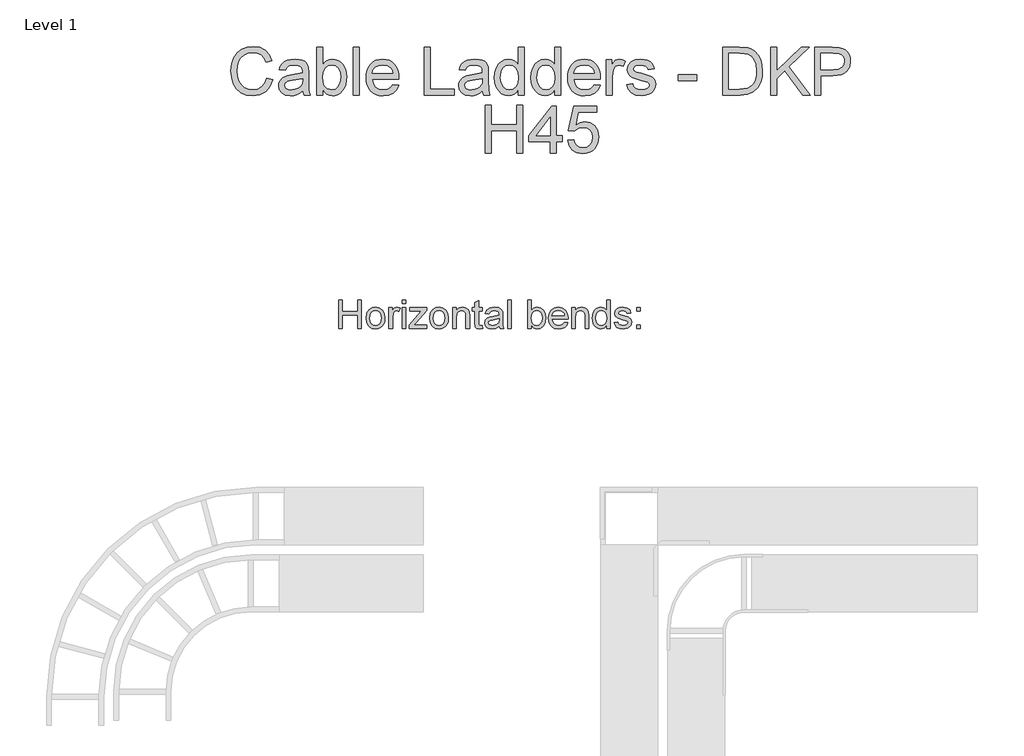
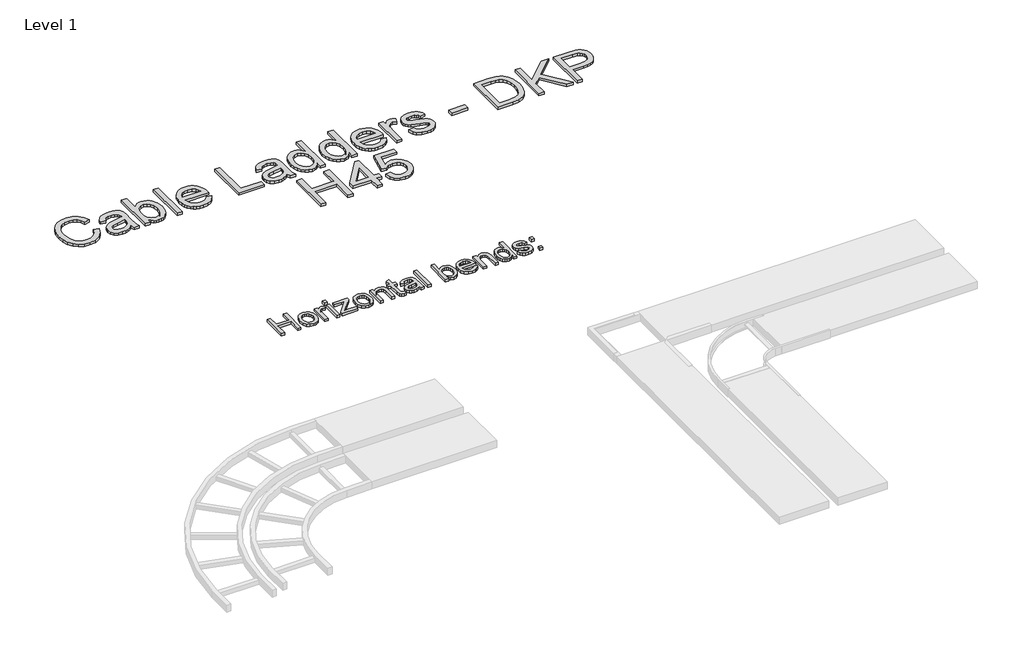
# One storey, part 82 of 106: 2 proxies.
"""IFC4 building model written with IfcOpenShell, lengths in millimetres."""

import ifcopenshell
import ifcopenshell.guid

model = None  # the IFC model being written
_history = None  # IfcOwnerHistory: only IFC2X3 demands one
_inside = {}  # id of a spatial element -> (the spatial element, [elements in it])
_under = {}  # id of a project, library or spatial element -> (it, [spatial elements below it])
_declared = {}  # id of a project -> (the project, [libraries it declares])
_typed = {}  # id of a type object -> (the type object, [elements of that type])
_made_of = {}  # id of a material, layer set ... -> (it, [elements and type objects made of it])


def new_model(schema):
    """Start an empty IFC model of exactly this schema.

    Asked for "IFC4X3", IfcOpenShell would pick the latest addendum, in which some entities
    have other attributes; the version numbers below select the first issue.
    IFC2X3 requires an IfcOwnerHistory on every rooted entity: one is made here for all.
    """
    global model, _history
    if schema == "IFC4X3":
        model = ifcopenshell.file(schema_version=(4, 3, 0, 0))
    else:
        model = ifcopenshell.file(schema=schema)
    _inside.clear()
    _under.clear()
    _declared.clear()
    _typed.clear()
    _made_of.clear()
    _history = None
    if model.schema == "IFC2X3":
        org = make("IfcOrganization", Name="unknown")
        user = make(
            "IfcPersonAndOrganization",
            ThePerson=make("IfcPerson", FamilyName="unknown"),
            TheOrganization=org,
        )
        app = make(
            "IfcApplication",
            ApplicationDeveloper=org,
            Version="unknown",
            ApplicationFullName="unknown",
            ApplicationIdentifier="unknown",
        )
        _history = make(
            "IfcOwnerHistory",
            OwningUser=user,
            OwningApplication=app,
            ChangeAction="ADDED",
            CreationDate=0,
        )
    return model


def make(cls, **values):
    """One entity of the class cls with the attributes given. An attribute that is None is left unset."""
    return model.create_entity(
        cls, **{name: value for name, value in values.items() if value is not None}
    )


def rooted(cls, **values):
    """An entity with a GlobalId (a new one), such as an element, a storey or a relation."""
    return make(cls, GlobalId=ifcopenshell.guid.new(), OwnerHistory=_history, **values)


def si_unit(unit_type, name, prefix=None):
    """IfcSIUnit, for example si_unit("LENGTHUNIT", "METRE", prefix="MILLI")."""
    return make("IfcSIUnit", UnitType=unit_type, Prefix=prefix, Name=name)


def assignment(units):
    """IfcUnitAssignment: the units of a project."""
    return None if units is None else make("IfcUnitAssignment", Units=units)


def point(xyz):
    """IfcCartesianPoint."""
    return None if xyz is None else make("IfcCartesianPoint", Coordinates=xyz)


def direction(xyz):
    """IfcDirection."""
    return None if xyz is None else make("IfcDirection", DirectionRatios=xyz)


def frame(location, z_axis=None, x_axis=None):
    """IfcAxis2Placement3D, a coordinate frame: its origin and axes. An axis left out is left unset."""
    return make(
        "IfcAxis2Placement3D",
        Location=point(location),
        Axis=direction(z_axis),
        RefDirection=direction(x_axis),
    )


def origin():
    """The frame at (0, 0, 0) with its axes left unset."""
    return frame((0.0, 0.0, 0.0))


def origin_with_axes():
    """The frame at (0, 0, 0) with the z axis (0, 0, 1) and the x axis (1, 0, 0) written out."""
    return frame((0.0, 0.0, 0.0), z_axis=(0.0, 0.0, 1.0), x_axis=(1.0, 0.0, 0.0))


def place(relative_to, where):
    """IfcLocalPlacement: puts the frame where relative to a parent placement (None: the world)."""
    return make(
        "IfcLocalPlacement", PlacementRelTo=relative_to, RelativePlacement=where
    )


def context(
    kind, dimensions, precision=None, world=None, true_north=None, identifier=None
):
    """IfcGeometricRepresentationContext, for example the 3D "Model" context."""
    return make(
        "IfcGeometricRepresentationContext",
        ContextIdentifier=identifier,
        ContextType=kind,
        CoordinateSpaceDimension=dimensions,
        Precision=precision,
        WorldCoordinateSystem=world,
        TrueNorth=true_north,
    )


def project(units=None, contexts=None):
    """IfcProject with its units and contexts."""
    return rooted(
        "IfcProject",
        Name="project",
        RepresentationContexts=contexts,
        UnitsInContext=assignment(units),
    )


def spatial(cls, under=None, at=None, **own):
    """A site, building, storey or space (cls), placed at a placement, below another one or the project."""
    s = rooted(cls, ObjectPlacement=at, **own)
    if under is not None:
        _under.setdefault(under.id(), (under, []))[1].append(s)
    return s


def polyline(points):
    """IfcPolyline through the points."""
    return make("IfcPolyline", Points=[point(p) for p in points])


def outline(outer, holes=None, kind="AREA"):
    """IfcArbitraryClosedProfileDef: a profile drawn as a closed curve; with holes, ...WithVoids."""
    if holes is None:
        return make("IfcArbitraryClosedProfileDef", ProfileType=kind, OuterCurve=outer)
    return make(
        "IfcArbitraryProfileDefWithVoids",
        ProfileType=kind,
        OuterCurve=outer,
        InnerCurves=holes,
    )


def extrude(swept, where, along, depth):
    """IfcExtrudedAreaSolid: the profile swept, set in the frame where, extruded along a direction by depth."""
    return make(
        "IfcExtrudedAreaSolid",
        SweptArea=swept,
        Position=where,
        ExtrudedDirection=direction(along),
        Depth=depth,
    )


def shape(context_of_items, identifier, shape_type, items):
    """IfcShapeRepresentation: the items that make up one representation, for example the "Body"."""
    return make(
        "IfcShapeRepresentation",
        ContextOfItems=context_of_items,
        RepresentationIdentifier=identifier,
        RepresentationType=shape_type,
        Items=items,
    )


def made_of(thing, what):
    """Note that an element or type object is made of a material, layer set ...; save() writes the relation."""
    if what is not None:
        _made_of.setdefault(what.id(), (what, []))[1].append(thing)
    return thing


def element(
    cls,
    number,
    at=None,
    inside=None,
    cuts=None,
    type_object=None,
    material=None,
    context=None,
    identifier="Body",
    shape_type=None,
    held_by="IfcProductDefinitionShape",
    body=None,
    shapes=None,
    **own,
):
    """One element of the class cls, such as IfcWall. Its Tag is "e" and its number.

    at: its placement. inside: the storey or other place that contains it. cuts: it is an
    opening in that element (IfcRelVoidsElement). A single representation is given by context,
    identifier, shape_type and body (its items); several are given by shapes. held_by: the class
    of the entity that holds the representations. save() writes the other relations.
    """
    e = rooted(cls, Tag="e%d" % number, ObjectPlacement=at, **own)
    if body is not None:
        shapes = [shape(context, identifier, shape_type, body)]
    if shapes is not None:
        e.Representation = make(held_by, Representations=shapes)
    if inside is not None:
        _inside.setdefault(inside.id(), (inside, []))[1].append(e)
    if cuts is not None:
        rooted(
            "IfcRelVoidsElement", RelatingBuildingElement=cuts, RelatedOpeningElement=e
        )
    if type_object is not None:
        _typed.setdefault(type_object.id(), (type_object, []))[1].append(e)
    return made_of(e, material)


def aggregate(whole, parts):
    """IfcRelAggregates: a whole, such as a stair, and the parts it consists of."""
    return rooted("IfcRelAggregates", RelatingObject=whole, RelatedObjects=parts)


def save(model, path):
    """Write the relations noted so far, then the file.

    IfcRelAggregates (storeys below a building ...), IfcRelContainedInSpatialStructure (elements
    in a storey), IfcRelDefinesByType, IfcRelAssociatesMaterial and IfcRelDeclares: one each for
    every whole, place, type object, material and project.
    """
    for whole, parts in _under.values():
        aggregate(whole, parts)
    for where, things in _inside.values():
        rooted(
            "IfcRelContainedInSpatialStructure",
            RelatedElements=things,
            RelatingStructure=where,
        )
    for kind, things in _typed.values():
        rooted("IfcRelDefinesByType", RelatedObjects=things, RelatingType=kind)
    for what, things in _made_of.values():
        rooted("IfcRelAssociatesMaterial", RelatedObjects=things, RelatingMaterial=what)
    for by, libraries in _declared.values():
        rooted("IfcRelDeclares", RelatingContext=by, RelatedDefinitions=libraries)
    model.write(path)


model = new_model("IFC4")

# Units and contexts
model_context = context("Model", 3, world=origin())
ifc_project = project(units=[si_unit("LENGTHUNIT", "METRE", prefix="MILLI")], contexts=[model_context])

# Site, building, storey
site = spatial("IfcSite", under=ifc_project)
building = spatial("IfcBuilding", under=site)
storey = spatial("IfcBuildingStorey", under=building, Name="Level 1", Elevation=0.0)

# Proxies
placement = place(None, origin())
element("IfcBuildingElementProxy", 1, Name="150mm Arial 2", ObjectType="150mm Arial 2", at=placement, inside=storey, context=model_context, shape_type="SweptSolid", body=[
    extrude(outline(polyline([(42265.8833156, 70274.2713912), (42265.8833156, 70424.9558564), (42284.7188737, 70424.9558564), (42284.7188737, 70363.7402924), (42364.7699959, 70363.7402924), (42364.7699959, 70424.9558564), (42383.605554, 70424.9558564), (42383.605554, 70274.2713912), (42364.7699959, 70274.2713912), (42364.7699959, 70344.9047343), (42284.7188737, 70344.9047343), (42284.7188737, 70274.2713912), (42265.8833156, 70274.2713912)])), origin_with_axes(), (0.0, 0.0, 1.0), 15.0),
    extrude(outline(polyline([(42409.5044465, 70329.6008433), (42413.5787396, 70356.281485), (42425.8016189, 70375.0342697), (42440.9031748, 70384.2221225), (42458.9845748, 70387.2847401), (42478.7720277, 70383.5553364), (42494.5771579, 70372.3671252), (42504.9376346, 70354.6030234), (42508.3911268, 70331.1459476), (42506.8644165, 70312.1172514), (42502.2842857, 70297.6318979), (42494.7840915, 70286.7839775), (42484.4971912, 70278.667581), (42472.2789104, 70273.6046051), (42458.9845748, 70271.9169464), (42438.9579987, 70275.6325546), (42423.1712626, 70286.779379), (42412.9211505, 70304.9159614), (42409.5044465, 70329.6008433)]), holes=[polyline([(42428.3400046, 70329.6376315), (42430.5197055, 70312.5908995), (42437.0588079, 70300.4461951), (42446.8996513, 70293.1759272), (42458.9845748, 70290.7525046), (42471.0143161, 70293.1897228), (42480.8367654, 70300.5013774), (42487.3758678, 70312.8070302), (42489.5555686, 70330.2262427), (42487.3620722, 70346.7763339), (42480.7815831, 70358.7554914), (42470.9453382, 70366.0257593), (42458.9845748, 70368.449182), (42446.8996513, 70366.0349564), (42437.0588079, 70358.7922796), (42430.5197055, 70346.6751664), (42428.3400046, 70329.6376315)])]), origin_with_axes(), (0.0, 0.0, 1.0), 15.0),
    extrude(outline(polyline([(42529.5811297, 70274.2713912), (42529.5811297, 70384.9302953), (42546.0622431, 70384.9302953), (42546.0622431, 70368.5595466), (42557.7608906, 70383.6427084), (42569.5331144, 70387.2847401), (42588.4422489, 70381.4722046), (42582.1514668, 70364.586421), (42568.907715, 70368.449182), (42558.2575312, 70364.7335738), (42551.4701084, 70354.4328779), (42548.4166879, 70332.4335346), (42548.4166879, 70274.2713912), (42529.5811297, 70274.2713912)])), origin_with_axes(), (0.0, 0.0, 1.0), 15.0),
    extrude(outline(polyline([(42600.2144728, 70406.1202983), (42600.2144728, 70424.9558564), (42619.0500309, 70424.9558564), (42619.0500309, 70406.1202983), (42600.2144728, 70406.1202983)])), origin_with_axes(), (0.0, 0.0, 1.0), 15.0),
    extrude(outline(polyline([(42600.2144728, 70274.2713912), (42600.2144728, 70384.9302953), (42619.0500309, 70384.9302953), (42619.0500309, 70274.2713912), (42600.2144728, 70274.2713912)])), origin_with_axes(), (0.0, 0.0, 1.0), 15.0),
    extrude(outline(polyline([(42635.5311443, 70274.2713912), (42635.5311443, 70292.0033034), (42700.5358929, 70366.0947372), (42681.2956645, 70366.0947372), (42640.2400339, 70366.0947372), (42640.2400339, 70384.9302953), (42727.3544903, 70384.9302953), (42727.3544903, 70368.9274285), (42669.7073817, 70303.186916), (42660.8782138, 70293.1069493), (42682.6568279, 70293.1069493), (42729.7089351, 70293.1069493), (42729.7089351, 70274.2713912), (42635.5311443, 70274.2713912)])), origin_with_axes(), (0.0, 0.0, 1.0), 15.0),
    extrude(outline(polyline([(42743.8356037, 70329.6008433), (42747.9098968, 70356.281485), (42760.1327761, 70375.0342697), (42775.234332, 70384.2221225), (42793.3157321, 70387.2847401), (42813.1031849, 70383.5553364), (42828.9083151, 70372.3671252), (42839.2687918, 70354.6030234), (42842.722284, 70331.1459476), (42841.1955737, 70312.1172514), (42836.6154429, 70297.6318979), (42829.1152487, 70286.7839775), (42818.8283484, 70278.667581), (42806.6100677, 70273.6046051), (42793.3157321, 70271.9169464), (42773.2891559, 70275.6325546), (42757.5024198, 70286.779379), (42747.2523077, 70304.9159614), (42743.8356037, 70329.6008433)]), holes=[polyline([(42762.6711619, 70329.6376315), (42764.8508627, 70312.5908995), (42771.3899651, 70300.4461951), (42781.2308085, 70293.1759272), (42793.3157321, 70290.7525046), (42805.3454733, 70293.1897228), (42815.1679226, 70300.5013774), (42821.707025, 70312.8070302), (42823.8867259, 70330.2262427), (42821.6932295, 70346.7763339), (42815.1127403, 70358.7554914), (42805.2764954, 70366.0257593), (42793.3157321, 70368.449182), (42781.2308085, 70366.0349564), (42771.3899651, 70358.7922796), (42764.8508627, 70346.6751664), (42762.6711619, 70329.6376315)])]), origin_with_axes(), (0.0, 0.0, 1.0), 15.0),
    extrude(outline(polyline([(42863.9122869, 70274.2713912), (42863.9122869, 70384.9302953), (42882.7478451, 70384.9302953), (42882.7478451, 70369.4792515), (42897.1504252, 70382.833368), (42916.8137178, 70387.2847401), (42934.6008123, 70383.6978907), (42946.7409182, 70374.2801116), (42952.3879068, 70360.4293545), (42953.3811882, 70342.2191957), (42953.3811882, 70274.2713912), (42934.54563, 70274.2713912), (42934.54563, 70339.6808099), (42932.3751262, 70356.3458643), (42924.7047866, 70365.1566381), (42911.7737345, 70368.449182), (42900.7418732, 70366.6005749), (42891.3378897, 70361.0547538), (42884.8953562, 70350.3401907), (42882.7478451, 70332.9853576), (42882.7478451, 70274.2713912), (42863.9122869, 70274.2713912)])), origin_with_axes(), (0.0, 0.0, 1.0), 15.0),
    extrude(outline(polyline([(43019.3056417, 70289.9799524), (43021.6600865, 70273.7195682), (43007.5702061, 70271.9169464), (42991.7880685, 70275.0439434), (42983.9153938, 70283.2477119), (42981.6345254, 70304.6216558), (42981.6345254, 70366.0947372), (42967.5078568, 70366.0947372), (42967.5078568, 70384.9302953), (42981.6345254, 70384.9302953), (42981.6345254, 70411.8224692), (43000.4700835, 70422.8957172), (43000.4700835, 70384.9302953), (43019.3056417, 70384.9302953), (43019.3056417, 70366.0947372), (43000.4700835, 70366.0947372), (43000.4700835, 70305.1734788), (43001.4633649, 70295.4613941), (43004.6823324, 70292.0216975), (43011.1018732, 70290.7525046), (43019.3056417, 70289.9799524)])), origin_with_axes(), (0.0, 0.0, 1.0), 15.0),
    extrude(outline(polyline([(43108.7745429, 70288.3980598), (43090.5092019, 70275.6325546), (43070.3308744, 70271.9169464), (43054.5901236, 70274.1518295), (43042.9788481, 70280.8564789), (43035.8189448, 70291.0376131), (43033.4323103, 70303.7019508), (43037.0375539, 70318.6011716), (43046.5105152, 70329.4169023), (43059.6990848, 70335.5973198), (43075.9962572, 70338.4300111), (43108.6641783, 70344.9047343), (43108.7745429, 70349.098589), (43107.4777589, 70357.5046926), (43103.5874068, 70363.0045284), (43094.8869976, 70367.0880186), (43082.7652859, 70368.449182), (43063.7089985, 70364.8255443), (43054.6223132, 70351.9680686), (43035.7867551, 70354.3225133), (43043.9353413, 70372.7166131), (43060.3428783, 70383.4955556), (43085.193307, 70387.2847401), (43108.0203848, 70383.9370139), (43120.9146488, 70375.5309104), (43126.6903961, 70362.747011), (43127.6101011, 70346.2658976), (43127.6101011, 70322.8318146), (43128.5665943, 70290.1087111), (43132.3189906, 70274.2713912), (43113.4834325, 70274.2713912), (43108.7745429, 70288.3980598)]), holes=[polyline([(43108.7745429, 70326.0691761), (43078.3874901, 70320.2934288), (43062.1822882, 70317.2400082), (43054.8430424, 70312.2736013), (43052.2678685, 70305.026326), (43057.8780689, 70294.8359947), (43074.3407882, 70290.7525046), (43093.3970755, 70295.259059), (43105.6843342, 70306.1667602), (43108.6641783, 70320.7348872), (43108.7745429, 70326.0691761)])]), origin_with_axes(), (0.0, 0.0, 1.0), 15.0),
    extrude(outline(polyline([(43153.5089935, 70274.2713912), (43153.5089935, 70424.9558564), (43172.3445517, 70424.9558564), (43172.3445517, 70274.2713912), (43153.5089935, 70274.2713912)])), origin_with_axes(), (0.0, 0.0, 1.0), 15.0),
    extrude(outline(polyline([(43278.2945663, 70274.2713912), (43259.4590082, 70274.2713912), (43259.4590082, 70424.9558564), (43278.2945663, 70424.9558564), (43278.2945663, 70369.0745813), (43291.4831358, 70382.7322004), (43307.8722787, 70387.2847401), (43326.7446251, 70383.1828559), (43341.3863285, 70371.6497553), (43350.3810433, 70353.715508), (43353.6367989, 70331.2563122), (43350.2660801, 70306.1115779), (43340.1539238, 70287.4047784), (43325.3144838, 70275.7889044), (43307.7619141, 70271.9169464), (43291.0140863, 70276.9109445), (43278.2945663, 70291.8929388), (43278.2945663, 70274.2713912)]), holes=[polyline([(43278.2945663, 70330.3733955), (43279.5821533, 70314.6648343), (43283.4449142, 70304.0330446), (43293.3133488, 70294.0726396), (43306.1432333, 70290.7525046), (43317.0141463, 70293.1989198), (43326.3031667, 70300.5381656), (43332.6767222, 70312.7242567), (43334.8012408, 70329.7112079), (43332.7640942, 70346.9464793), (43326.6526546, 70358.9946147), (43317.6533413, 70366.0855401), (43306.9525737, 70368.449182), (43296.0816608, 70366.0027667), (43286.7926404, 70358.6635209), (43280.4190848, 70346.698159), (43278.2945663, 70330.3733955)])]), origin_with_axes(), (0.0, 0.0, 1.0), 15.0),
    extrude(outline(polyline([(43452.30275, 70307.233618), (43470.7704262, 70304.8791732), (43464.1163606, 70290.9640367), (43453.4983665, 70280.5621733), (43439.1555672, 70274.0782531), (43421.327086, 70271.9169464), (43399.2265752, 70275.6463501), (43382.2212299, 70286.8345613), (43371.3779081, 70304.755013), (43367.7634675, 70328.6811383), (43371.4146963, 70353.4120054), (43382.3683827, 70371.9072727), (43399.1438017, 70383.4403733), (43420.2602282, 70387.2847401), (43440.7190657, 70383.4495703), (43457.0668219, 70371.9440609), (43467.7859835, 70353.4855818), (43471.3590374, 70328.7915029), (43471.2486728, 70323.7147313), (43386.5990257, 70323.7147313), (43389.8593799, 70309.6156539), (43397.4331504, 70299.2505787), (43408.3638442, 70292.8770231), (43421.694968, 70290.7525046), (43440.1626442, 70294.6888419), (43452.30275, 70307.233618)]), holes=[polyline([(43386.5990257, 70342.5502895), (43452.5234792, 70342.5502895), (43449.9758964, 70352.5014975), (43444.9818983, 70359.6200141), (43434.0006208, 70366.24189), (43420.1866518, 70368.449182), (43407.4901245, 70366.6879469), (43396.991692, 70361.4042417), (43389.693833, 70353.1682836), (43386.5990257, 70342.5502895)])]), origin_with_axes(), (0.0, 0.0, 1.0), 15.0),
    extrude(outline(polyline([(43490.1945955, 70274.2713912), (43490.1945955, 70384.9302953), (43509.0301537, 70384.9302953), (43509.0301537, 70369.4792515), (43523.4327338, 70382.833368), (43543.0960264, 70387.2847401), (43560.8831209, 70383.6978907), (43573.0232267, 70374.2801116), (43578.6702154, 70360.4293545), (43579.6634968, 70342.2191957), (43579.6634968, 70274.2713912), (43560.8279386, 70274.2713912), (43560.8279386, 70339.6808099), (43558.6574348, 70356.3458643), (43550.9870952, 70365.1566381), (43538.0560431, 70368.449182), (43527.0241818, 70366.6005749), (43517.6201983, 70361.0547538), (43511.1776648, 70350.3401907), (43509.0301537, 70332.9853576), (43509.0301537, 70274.2713912), (43490.1945955, 70274.2713912)])), origin_with_axes(), (0.0, 0.0, 1.0), 15.0),
    extrude(outline(polyline([(43673.8412875, 70274.2713912), (43673.8412875, 70292.0400916), (43661.3792849, 70276.9477327), (43644.1532105, 70271.9169464), (43631.9763165, 70273.7379623), (43620.829492, 70279.2010099), (43611.3933188, 70287.9244117), (43604.3483786, 70299.5264902), (43599.9613858, 70313.5381956), (43598.4990549, 70329.4904787), (43603.8885261, 70359.4728613), (43610.6207666, 70371.3646468), (43620.0385457, 70380.1110412), (43631.429092, 70385.4913154), (43644.0796341, 70387.2847401), (43661.4436643, 70382.1527863), (43673.8412875, 70368.8170639), (43673.8412875, 70424.9558564), (43692.6768457, 70424.9558564), (43692.6768457, 70274.2713912), (43673.8412875, 70274.2713912)]), holes=[polyline([(43617.3346131, 70329.5640551), (43619.4591316, 70312.5265202), (43625.8326871, 70300.4094069), (43635.0941164, 70293.1667302), (43645.8822559, 70290.7525046), (43656.6657969, 70293.0563656), (43665.6927013, 70299.9679485), (43671.804141, 70311.6160122), (43673.8412875, 70328.1293153), (43671.7673528, 70346.1831242), (43665.5455485, 70358.7003091), (43656.2887178, 70366.0119637), (43645.1097037, 70368.449182), (43634.2111996, 70366.1085328), (43625.2808642, 70359.0865852), (43619.3211758, 70347.0246543), (43617.3346131, 70329.5640551)])]), origin_with_axes(), (0.0, 0.0, 1.0), 15.0),
    extrude(outline(polyline([(43713.8668486, 70307.233618), (43732.7024067, 70309.5880627), (43735.6730539, 70301.531447), (43741.42121, 70295.6085469), (43761.3972024, 70290.7525046), (43780.6006425, 70295.2038767), (43786.8546364, 70305.6517254), (43785.2819409, 70310.4525854), (43780.5638543, 70314.1130113), (43761.1764732, 70319.4840884), (43732.8127713, 70328.6995324), (43720.4335422, 70339.4600807), (43716.2212934, 70354.6536071), (43719.6058077, 70368.6883052), (43728.8396458, 70379.4120654), (43740.8142047, 70384.9854776), (43757.0194066, 70387.2847401), (43779.9384549, 70383.5875261), (43794.5065819, 70373.5811358), (43800.9813051, 70356.6769581), (43782.1457469, 70354.3225133), (43775.0640185, 70364.7151797), (43758.4909346, 70368.449182), (43740.4647168, 70364.8807266), (43735.0568515, 70356.5665935), (43737.3009317, 70351.0851518), (43744.3274778, 70346.9280852), (43760.5510738, 70342.9181715), (43788.1974057, 70334.0522154), (43801.0364873, 70324.0090369), (43805.6901946, 70307.6382881), (43800.227147, 70289.6120704), (43784.4634035, 70276.5338655), (43761.139685, 70271.9169464), (43742.147777, 70274.1426325), (43728.2878228, 70280.8196907), (43719.0355906, 70291.8745447), (43713.8668486, 70307.233618)])), origin_with_axes(), (0.0, 0.0, 1.0), 15.0),
    extrude(outline(polyline([(43831.589087, 70366.0947372), (43831.589087, 70384.9302953), (43850.4246452, 70384.9302953), (43850.4246452, 70366.0947372), (43831.589087, 70366.0947372)])), origin_with_axes(), (0.0, 0.0, 1.0), 15.0),
    extrude(outline(polyline([(43831.589087, 70274.2713912), (43831.589087, 70293.1069493), (43850.4246452, 70293.1069493), (43850.4246452, 70274.2713912), (43831.589087, 70274.2713912)])), origin_with_axes(), (0.0, 0.0, 1.0), 15.0),
])
element("IfcBuildingElementProxy", 2, Name="250mm Arial 3", ObjectType="250mm Arial 3", at=placement, inside=storey, context=model_context, shape_type="SweptSolid", body=[
    extrude(outline(polyline([(41887.288869, 71592.4106539), (41918.6814659, 71584.31725), (41904.1961124, 71547.7359841), (41881.4640708, 71521.01089), (41851.6043155, 71504.6631338), (41815.735821, 71499.2138818), (41779.3231676, 71503.3372258), (41750.40611, 71515.7072579), (41728.2412198, 71535.8947824), (41712.0850688, 71563.4706036), (41702.2212328, 71595.8902044), (41698.9332875, 71630.6090677), (41702.6504285, 71667.2286547), (41713.8018515, 71698.8511778), (41731.8050766, 71724.472626), (41756.0776241, 71743.0889877), (41784.8643902, 71754.4243517), (41816.4102713, 71758.2028064), (41850.8302305, 71753.3130415), (41879.2874356, 71738.643747), (41900.8928386, 71715.0992993), (41914.7573913, 71683.584075), (41883.3647944, 71676.1038078), (41872.4816187, 71698.9967978), (41857.6130547, 71714.7007605), (41838.5751615, 71723.7828472), (41815.183998, 71726.8102095), (41788.2213134, 71723.4532863), (41766.0717516, 71713.3825166), (41749.264143, 71697.6555613), (41738.3273178, 71677.3300811), (41732.3262428, 71654.3527848), (41730.3258844, 71630.6703814), (41732.6941248, 71601.6690174), (41739.7988458, 71576.5917281), (41751.9082948, 71556.3965394), (41769.2907191, 71542.0414774), (41790.1297013, 71533.4652284), (41812.608824, 71530.6064787), (41838.8127519, 71534.4998965), (41860.6480812, 71546.1801498), (41877.1337931, 71565.5246114), (41887.288869, 71592.4106539)])), origin_with_axes(), (0.0, 0.0, 1.0), 15.0),
    extrude(outline(polyline([(42075.6444505, 71526.6824041), (42060.645595, 71513.8218627), (42045.2022154, 71505.406562), (42028.9617582, 71500.7620518), (42011.5716697, 71499.2138818), (41985.3370849, 71502.938687), (41965.9849592, 71514.1131026), (41954.0517869, 71531.0816596), (41950.0740629, 71552.1888891), (41951.5762477, 71565.2027147), (41956.0828021, 71577.0209238), (41971.8710711, 71595.0471415), (41993.8520203, 71605.3478374), (42021.0139743, 71610.0689897), (42075.4605096, 71620.8601949), (42075.6444505, 71627.8499528), (42073.4831438, 71641.8601254), (42066.9992237, 71651.0265185), (42052.4985417, 71657.8323354), (42032.2956888, 71660.100941), (42013.5950207, 71658.591092), (42000.5352099, 71654.0615449), (41991.6293999, 71645.6845653), (41985.3907344, 71632.6324187), (41953.9981375, 71636.5564933), (41959.4473895, 71653.7243198), (41967.5791145, 71667.2133262), (41979.1520689, 71677.5293505), (41994.9250094, 71685.1782303), (42014.2158216, 71689.914711), (42036.3423907, 71691.4935379), (42057.5645833, 71690.098652), (42074.3875204, 71685.9139943), (42087.071785, 71679.6216794), (42095.8779603, 71671.9038217), (42105.5042058, 71650.5973228), (42107.0370475, 71623.1288005), (42107.0370475, 71584.0719953), (42108.6312028, 71529.5334895), (42114.8851967, 71503.1379564), (42083.4925998, 71503.1379564), (42075.6444505, 71526.6824041)]), holes=[polyline([(42075.6444505, 71589.4675979), (42024.9993625, 71579.8413524), (41997.9906927, 71574.7523181), (41985.7586164, 71566.4749732), (41981.4666598, 71554.3961811), (41983.8042433, 71545.0611754), (41990.8169938, 71537.4122956), (42002.3516272, 71532.3079329), (42018.2548593, 71530.6064787), (42035.1161174, 71532.4842097), (42050.0153382, 71538.1174028), (42062.0941304, 71546.4177403), (42070.4941026, 71556.2969047), (42074.2189078, 71566.4749732), (42075.4605096, 71580.5771164), (42075.6444505, 71589.4675979)])]), origin_with_axes(), (0.0, 0.0, 1.0), 15.0),
    extrude(outline(polyline([(42181.5944652, 71503.1379564), (42150.2018682, 71503.1379564), (42150.2018682, 71754.2787318), (42181.5944652, 71754.2787318), (42181.5944652, 71661.1432733), (42191.9181536, 71674.4215141), (42203.5754144, 71683.9059718), (42216.5662473, 71689.5966464), (42230.8906525, 71691.4935379), (42247.0621319, 71689.7844195), (42262.3445631, 71684.6570642), (42275.8642264, 71676.4333687), (42286.7474021, 71665.4352299), (42301.7385934, 71635.5448178), (42307.1648528, 71598.1128248), (42301.5469882, 71556.2049342), (42294.5246574, 71539.2746982), (42284.6933943, 71525.0269351), (42272.8924297, 71513.7337243), (42259.9609943, 71505.6671451), (42245.8990883, 71500.8271976), (42230.7067115, 71499.2138818), (42215.9109575, 71501.2947143), (42202.7936651, 71507.5372119), (42191.3548343, 71517.9413746), (42181.5944652, 71532.5072023), (42181.5944652, 71503.1379564)]), holes=[polyline([(42181.5944652, 71596.6412968), (42183.7404435, 71570.4603615), (42190.1783784, 71552.7407121), (42206.6257692, 71536.140037), (42228.0089102, 71530.6064787), (42246.1270985, 71534.6838375), (42261.6087991, 71546.9159138), (42272.2313917, 71567.2260656), (42275.7722559, 71595.5376509), (42272.3770117, 71624.2631033), (42262.1912789, 71644.3433289), (42247.1924234, 71656.161538), (42229.3578109, 71660.100941), (42211.2396226, 71656.0235822), (42195.757922, 71643.7915059), (42185.1353294, 71623.8492361), (42181.5944652, 71596.6412968)])]), origin_with_axes(), (0.0, 0.0, 1.0), 15.0),
    extrude(outline(polyline([(42342.4815244, 71503.1379564), (42342.4815244, 71754.2787318), (42373.8741213, 71754.2787318), (42373.8741213, 71503.1379564), (42342.4815244, 71503.1379564)])), origin_with_axes(), (0.0, 0.0, 1.0), 15.0),
    extrude(outline(polyline([(42550.089597, 71558.075001), (42580.8690573, 71554.1509264), (42569.7789479, 71530.9590323), (42552.0822911, 71513.6225933), (42528.1776257, 71502.8160597), (42498.4634903, 71499.2138818), (42478.9849051, 71500.7678), (42461.6293056, 71505.4295547), (42446.3966917, 71513.1991458), (42433.2870635, 71524.0765733), (42422.7449451, 71537.759101), (42415.2148605, 71553.9439928), (42410.6968098, 71572.6312485), (42409.1907928, 71593.8208682), (42410.7121382, 71615.7290074), (42415.2761742, 71635.0389801), (42422.8829009, 71651.7507861), (42433.5323182, 71665.8644256), (42446.6074574, 71677.0771622), (42461.4913498, 71685.0862598), (42478.1839954, 71689.8917184), (42496.685394, 71691.4935379), (42514.5909005, 71689.8955505), (42530.7834565, 71685.1015883), (42545.2630619, 71677.1116512), (42558.0297167, 71665.9257393), (42568.4511239, 71651.8427566), (42575.8949861, 71635.1616074), (42580.3613035, 71615.8822916), (42581.8500759, 71594.0048092), (42581.6661349, 71585.5435233), (42440.5833898, 71585.5435233), (42446.0173134, 71562.0450609), (42458.6402644, 71544.7699355), (42476.8580873, 71534.1473429), (42499.076627, 71530.6064787), (42515.7846009, 71532.2466193), (42529.8560873, 71537.1670409), (42541.2910859, 71545.6743121), (42550.089597, 71558.075001)]), holes=[polyline([(42440.5833898, 71616.9361202), (42550.457479, 71616.9361202), (42546.2115076, 71633.5214669), (42537.8881775, 71645.3856612), (42519.5860482, 71656.4221211), (42496.5627667, 71660.100941), (42475.4018878, 71657.1655493), (42457.9045004, 71648.359374), (42445.7414019, 71634.632777), (42440.5833898, 71616.9361202)])]), origin_with_axes(), (0.0, 0.0, 1.0), 15.0),
    extrude(outline(polyline([(42715.2686128, 71503.1379564), (42715.2686128, 71754.2787318), (42746.6612098, 71754.2787318), (42746.6612098, 71534.5305533), (42872.2315974, 71534.5305533), (42872.2315974, 71503.1379564), (42715.2686128, 71503.1379564)])), origin_with_axes(), (0.0, 0.0, 1.0), 15.0),
    extrude(outline(polyline([(43021.3464328, 71526.6824041), (43006.3475773, 71513.8218627), (42990.9041977, 71505.406562), (42974.6637405, 71500.7620518), (42957.273652, 71499.2138818), (42931.0390672, 71502.938687), (42911.6869414, 71514.1131026), (42899.7537692, 71531.0816596), (42895.7760451, 71552.1888891), (42897.2782299, 71565.2027147), (42901.7847844, 71577.0209238), (42917.5730533, 71595.0471415), (42939.5540026, 71605.3478374), (42966.7159565, 71610.0689897), (43021.1624918, 71620.8601949), (43021.3464328, 71627.8499528), (43019.1851261, 71641.8601254), (43012.7012059, 71651.0265185), (42998.200524, 71657.8323354), (42977.9976711, 71660.100941), (42959.297003, 71658.591092), (42946.2371921, 71654.0615449), (42937.3313822, 71645.6845653), (42931.0927167, 71632.6324187), (42899.7001197, 71636.5564933), (42905.1493718, 71653.7243198), (42913.2810967, 71667.2133262), (42924.8540512, 71677.5293505), (42940.6269917, 71685.1782303), (42959.9178038, 71689.914711), (42982.044373, 71691.4935379), (43003.2665656, 71690.098652), (43020.0895027, 71685.9139943), (43032.7737673, 71679.6216794), (43041.5799426, 71671.9038217), (43051.2061881, 71650.5973228), (43052.7390297, 71623.1288005), (43052.7390297, 71584.0719953), (43054.3331851, 71529.5334895), (43060.587179, 71503.1379564), (43029.194582, 71503.1379564), (43021.3464328, 71526.6824041)]), holes=[polyline([(43021.3464328, 71589.4675979), (42970.7013448, 71579.8413524), (42943.692675, 71574.7523181), (42931.4605987, 71566.4749732), (42927.1686421, 71554.3961811), (42929.5062256, 71545.0611754), (42936.5189761, 71537.4122956), (42948.0536095, 71532.3079329), (42963.9568416, 71530.6064787), (42980.8180997, 71532.4842097), (42995.7173205, 71538.1174028), (43007.7961127, 71546.4177403), (43016.1960849, 71556.2969047), (43019.9208901, 71566.4749732), (43021.1624918, 71580.5771164), (43021.3464328, 71589.4675979)])]), origin_with_axes(), (0.0, 0.0, 1.0), 15.0),
    extrude(outline(polyline([(43209.7020143, 71503.1379564), (43209.7020143, 71532.752457), (43200.3095272, 71518.0793303), (43188.93201, 71507.5985256), (43175.569463, 71501.3100427), (43160.221886, 71499.2138818), (43139.9270626, 71502.2489082), (43121.3490218, 71511.3539876), (43105.6220665, 71525.8929906), (43093.8804995, 71545.229788), (43086.5688449, 71568.5826305), (43084.1316267, 71595.1697689), (43086.3772397, 71621.4273463), (43093.1140787, 71645.1404065), (43104.3344796, 71664.960049), (43120.030778, 71679.5373731), (43139.0150218, 71688.5044967), (43160.0992587, 71691.4935379), (43175.458332, 71689.3552238), (43189.039309, 71682.9402815), (43200.5509497, 71673.1071024), (43209.7020143, 71660.7140777), (43209.7020143, 71754.2787318), (43241.0946113, 71754.2787318), (43241.0946113, 71503.1379564), (43209.7020143, 71503.1379564)]), holes=[polyline([(43115.5242236, 71595.2923962), (43119.0650878, 71566.8965047), (43129.6876804, 71546.701316), (43145.1233958, 71534.630188), (43163.1036283, 71530.6064787), (43181.0761966, 71534.446247), (43196.1210374, 71545.965552), (43206.3067701, 71565.3789915), (43209.7020143, 71592.9011632), (43206.2454564, 71622.9908447), (43195.8757827, 71643.8528196), (43180.4477315, 71656.0389106), (43161.8160413, 71660.100941), (43143.6518678, 71656.199859), (43128.7679754, 71644.496613), (43118.8351615, 71624.3933948), (43115.5242236, 71595.2923962)])]), origin_with_axes(), (0.0, 0.0, 1.0), 15.0),
    extrude(outline(polyline([(43401.9816705, 71503.1379564), (43401.9816705, 71532.752457), (43392.5891833, 71518.0793303), (43381.2116662, 71507.5985256), (43367.8491191, 71501.3100427), (43352.5015421, 71499.2138818), (43332.2067187, 71502.2489082), (43313.628678, 71511.3539876), (43297.9017227, 71525.8929906), (43286.1601557, 71545.229788), (43278.848501, 71568.5826305), (43276.4112828, 71595.1697689), (43278.6568958, 71621.4273463), (43285.3937349, 71645.1404065), (43296.6141357, 71664.960049), (43312.3104342, 71679.5373731), (43331.294678, 71688.5044967), (43352.3789148, 71691.4935379), (43367.7379881, 71689.3552238), (43381.3189651, 71682.9402815), (43392.8306059, 71673.1071024), (43401.9816705, 71660.7140777), (43401.9816705, 71754.2787318), (43433.3742674, 71754.2787318), (43433.3742674, 71503.1379564), (43401.9816705, 71503.1379564)]), holes=[polyline([(43307.8038797, 71595.2923962), (43311.3447439, 71566.8965047), (43321.9673365, 71546.701316), (43337.4030519, 71534.630188), (43355.3832844, 71530.6064787), (43373.3558527, 71534.446247), (43388.4006935, 71545.965552), (43398.5864262, 71565.3789915), (43401.9816705, 71592.9011632), (43398.5251126, 71622.9908447), (43388.1554388, 71643.8528196), (43372.7273877, 71656.0389106), (43354.0956975, 71660.100941), (43335.9315239, 71656.199859), (43321.0476316, 71644.496613), (43311.1148177, 71624.3933948), (43307.8038797, 71595.2923962)])]), origin_with_axes(), (0.0, 0.0, 1.0), 15.0),
    extrude(outline(polyline([(43609.5897431, 71558.075001), (43640.3692034, 71554.1509264), (43629.2790941, 71530.9590323), (43611.5824372, 71513.6225933), (43587.6777718, 71502.8160597), (43557.9636364, 71499.2138818), (43538.4850512, 71500.7678), (43521.1294517, 71505.4295547), (43505.8968378, 71513.1991458), (43492.7872096, 71524.0765733), (43482.2450912, 71537.759101), (43474.7150066, 71553.9439928), (43470.1969559, 71572.6312485), (43468.690939, 71593.8208682), (43470.2122843, 71615.7290074), (43474.7763203, 71635.0389801), (43482.383047, 71651.7507861), (43493.0324643, 71665.8644256), (43506.1076035, 71677.0771622), (43520.9914959, 71685.0862598), (43537.6841415, 71689.8917184), (43556.1855401, 71691.4935379), (43574.0910466, 71689.8955505), (43590.2836026, 71685.1015883), (43604.763208, 71677.1116512), (43617.5298628, 71665.9257393), (43627.95127, 71651.8427566), (43635.3951322, 71635.1616074), (43639.8614496, 71615.8822916), (43641.350222, 71594.0048092), (43641.166281, 71585.5435233), (43500.0835359, 71585.5435233), (43505.5174595, 71562.0450609), (43518.1404105, 71544.7699355), (43536.3582334, 71534.1473429), (43558.5767731, 71530.6064787), (43575.2847471, 71532.2466193), (43589.3562334, 71537.1670409), (43600.7912321, 71545.6743121), (43609.5897431, 71558.075001)]), holes=[polyline([(43500.0835359, 71616.9361202), (43609.9576251, 71616.9361202), (43605.7116537, 71633.5214669), (43597.3883236, 71645.3856612), (43579.0861943, 71656.4221211), (43556.0629128, 71660.100941), (43534.9020339, 71657.1655493), (43517.4046465, 71648.359374), (43505.241548, 71634.632777), (43500.0835359, 71616.9361202)])]), origin_with_axes(), (0.0, 0.0, 1.0), 15.0),
    extrude(outline(polyline([(43672.7428189, 71503.1379564), (43672.7428189, 71687.5694633), (43700.2113412, 71687.5694633), (43700.2113412, 71660.284882), (43710.3587529, 71676.1038078), (43719.709087, 71685.423485), (43739.3294601, 71691.4935379), (43754.9644449, 71689.0716481), (43770.8446843, 71681.8059787), (43760.3600475, 71653.6630061), (43738.2871278, 71660.100941), (43728.9138011, 71658.5527709), (43720.5368215, 71653.9082608), (43709.2244501, 71636.7404343), (43704.1354159, 71600.0748621), (43704.1354159, 71503.1379564), (43672.7428189, 71503.1379564)])), origin_with_axes(), (0.0, 0.0, 1.0), 15.0),
    extrude(outline(polyline([(43778.6928336, 71558.075001), (43810.0854305, 71561.9990756), (43815.036509, 71548.5713828), (43824.6167693, 71538.6998826), (43838.887525, 71532.6298297), (43857.9100898, 71530.6064787), (43876.7027284, 71532.4612171), (43889.9158234, 71538.0254323), (43897.7333158, 71546.0881793), (43900.3391466, 71555.4385134), (43897.7179874, 71563.4399468), (43889.8545098, 71569.5406565), (43857.5422079, 71578.4924517), (43810.2693715, 71593.851525), (43798.3055424, 71601.5693827), (43789.6373229, 71611.7857723), (43784.3720119, 71623.8492361), (43782.6169082, 71637.1083163), (43788.2577654, 71660.4994798), (43803.6474956, 71678.3724134), (43823.6050938, 71687.6614338), (43850.6137636, 71691.4935379), (43871.0465428, 71689.9530321), (43888.8121774, 71685.3315145), (43903.0982616, 71678.0811735), (43913.0923891, 71668.6541974), (43919.714265, 71656.3531432), (43923.8835943, 71640.4805679), (43892.4909974, 71636.5564933), (43888.5286017, 71646.4356577), (43880.6881167, 71653.8776039), (43868.8929002, 71658.5451067), (43853.0663102, 71660.100941), (43835.0400925, 71658.6140846), (43823.022614, 71654.1535154), (43816.2627823, 71647.7155805), (43814.0095051, 71640.2966269), (43817.7496387, 71631.1608907), (43829.4605489, 71624.2324465), (43856.4998755, 71617.5492569), (43902.5770954, 71602.7726634), (43914.7478581, 71595.7062634), (43923.9755648, 71586.0340326), (43929.7926989, 71573.7253142), (43931.7317435, 71558.7494513), (43929.4554737, 71543.2677507), (43922.6266642, 71528.7057551), (43911.505898, 71516.2054314), (43896.3537583, 71506.9087468), (43878.0516291, 71501.137598), (43857.4808942, 71499.2138818), (43825.8277142, 71502.9233586), (43802.7277906, 71514.0517889), (43787.3074036, 71532.4765455), (43778.6928336, 71558.075001)])), origin_with_axes(), (0.0, 0.0, 1.0), 15.0),
    extrude(outline(polyline([(44049.453982, 71577.6953741), (44049.453982, 71609.087971), (44147.5558474, 71609.087971), (44147.5558474, 71577.6953741), (44049.453982, 71577.6953741)])), origin_with_axes(), (0.0, 0.0, 1.0), 15.0),
    extrude(outline(polyline([(44284.8984589, 71503.1379564), (44284.8984589, 71754.2787318), (44371.5346688, 71754.2787318), (44416.3549585, 71750.6612255), (44436.3738704, 71743.686796), (44453.2657854, 71732.6963214), (44470.6328812, 71713.5664576), (44483.0029133, 71689.7767553), (44490.4065385, 71661.7870668), (44492.8744135, 71630.0572447), (44491.2036161, 71603.1022244), (44486.1912239, 71579.3814999), (44478.5576725, 71559.1863112), (44469.0233975, 71542.8078982), (44446.0920865, 71520.0298713), (44416.079047, 71507.429913), (44375.7039981, 71503.1379564), (44284.8984589, 71503.1379564)]), holes=[polyline([(44316.2910558, 71534.5305533), (44371.8412371, 71534.5305533), (44412.2469429, 71539.0677646), (44435.5461359, 71551.8823208), (44446.4523043, 71565.470962), (44454.6453429, 71583.0603198), (44459.7726982, 71604.7270365), (44461.4818166, 71630.5477541), (44458.1325576, 71664.7607796), (44448.0847806, 71690.0220099), (44433.2392093, 71707.3737774), (44415.4965672, 71717.8584142), (44397.4396926, 71721.6292047), (44370.9828458, 71722.8861348), (44316.2910558, 71722.8861348), (44316.2910558, 71534.5305533)])]), origin_with_axes(), (0.0, 0.0, 1.0), 15.0),
    extrude(outline(polyline([(44536.0392343, 71503.1379564), (44536.0392343, 71754.2787318), (44567.4318312, 71754.2787318), (44567.4318312, 71631.3448317), (44696.1905295, 71754.2787318), (44740.0911143, 71754.2787318), (44631.9951214, 71651.0265185), (44744.0151889, 71503.1379564), (44705.6328341, 71503.1379564), (44609.7382607, 71629.8119901), (44567.4318312, 71589.4675979), (44567.4318312, 71503.1379564), (44536.0392343, 71503.1379564)])), origin_with_axes(), (0.0, 0.0, 1.0), 15.0),
    extrude(outline(polyline([(44767.5596366, 71503.1379564), (44767.5596366, 71754.2787318), (44860.6337814, 71754.2787318), (44898.1577449, 71751.8874988), (44914.8887114, 71747.4192654), (44928.6612936, 71740.1459318), (44939.751403, 71729.737937), (44948.4349509, 71715.8657201), (44954.0451513, 71699.5026355), (44955.9152181, 71681.6220377), (44950.8645049, 71652.0228655), (44935.7123652, 71627.3594434), (44923.5780075, 71617.6488916), (44907.3777874, 71610.7127832), (44887.1117048, 71606.5511181), (44862.7797597, 71605.1638964), (44798.9522335, 71605.1638964), (44798.9522335, 71503.1379564), (44767.5596366, 71503.1379564)]), holes=[polyline([(44798.9522335, 71636.5564933), (44864.6191696, 71636.5564933), (44892.455574, 71639.4382356), (44910.8496737, 71648.0834625), (44921.1043843, 71661.9556794), (44924.5226212, 71680.5183917), (44922.5069344, 71694.6205349), (44916.4598741, 71706.5153861), (44907.1325327, 71715.4671813), (44895.2760026, 71720.7401565), (44863.8834057, 71722.8861348), (44798.9522335, 71722.8861348), (44798.9522335, 71636.5564933)])]), origin_with_axes(), (0.0, 0.0, 1.0), 15.0),
    extrude(outline(polyline([(43037.0427313, 71198.2009118), (43037.0427313, 71449.3416872), (43068.4353282, 71449.3416872), (43068.4353282, 71347.3157472), (43201.8538651, 71347.3157472), (43201.8538651, 71449.3416872), (43233.246462, 71449.3416872), (43233.246462, 71198.2009118), (43201.8538651, 71198.2009118), (43201.8538651, 71315.9231502), (43068.4353282, 71315.9231502), (43068.4353282, 71198.2009118), (43037.0427313, 71198.2009118)])), origin_with_axes(), (0.0, 0.0, 1.0), 15.0),
    extrude(outline(polyline([(43378.4372228, 71198.2009118), (43378.4372228, 71257.062031), (43264.639059, 71257.062031), (43264.639059, 71288.4546279), (43386.285372, 71445.4176125), (43409.8298197, 71445.4176125), (43409.8298197, 71288.4546279), (43441.2224166, 71288.4546279), (43441.2224166, 71257.062031), (43409.8298197, 71257.062031), (43409.8298197, 71198.2009118), (43378.4372228, 71198.2009118)]), holes=[polyline([(43378.4372228, 71288.4546279), (43378.4372228, 71385.4528473), (43303.2666685, 71288.4546279), (43378.4372228, 71288.4546279)])]), origin_with_axes(), (0.0, 0.0, 1.0), 15.0),
    extrude(outline(polyline([(43468.690939, 71264.9101802), (43500.0835359, 71268.8342549), (43505.8470205, 71249.9879668), (43515.9024617, 71236.4912961), (43530.2038742, 71228.3748996), (43548.7052729, 71225.6694341), (43571.2073883, 71229.4325603), (43588.0686464, 71240.7219391), (43598.5992685, 71258.2346549), (43602.1094759, 71280.6677924), (43598.8215305, 71301.7903503), (43588.9576945, 71317.9465012), (43572.4413258, 71328.2012118), (43549.1957822, 71331.6194487), (43533.9670005, 71330.2552196), (43521.6352894, 71326.1625324), (43504.0076105, 71311.9990756), (43472.6150136, 71315.9231502), (43500.0835359, 71445.4176125), (43621.7298489, 71445.4176125), (43621.7298489, 71414.0250156), (43525.4673935, 71414.0250156), (43512.0397007, 71344.8632005), (43534.465174, 71358.4748343), (43557.9636364, 71363.0120456), (43587.2945614, 71357.3865168), (43611.6437509, 71340.5099303), (43628.0374923, 71314.7888474), (43633.5020728, 71282.6298297), (43628.5816511, 71251.2372328), (43613.820386, 71224.3818471), (43600.7759036, 71211.2109053), (43585.5547861, 71201.8030897), (43568.1570334, 71196.1584003), (43548.5826456, 71194.2768372), (43517.7495359, 71199.1129526), (43493.1857485, 71213.6212987), (43476.347483, 71236.1157499), (43468.690939, 71264.9101802)])), origin_with_axes(), (0.0, 0.0, 1.0), 15.0),
])

save(model, "model.ifc")
